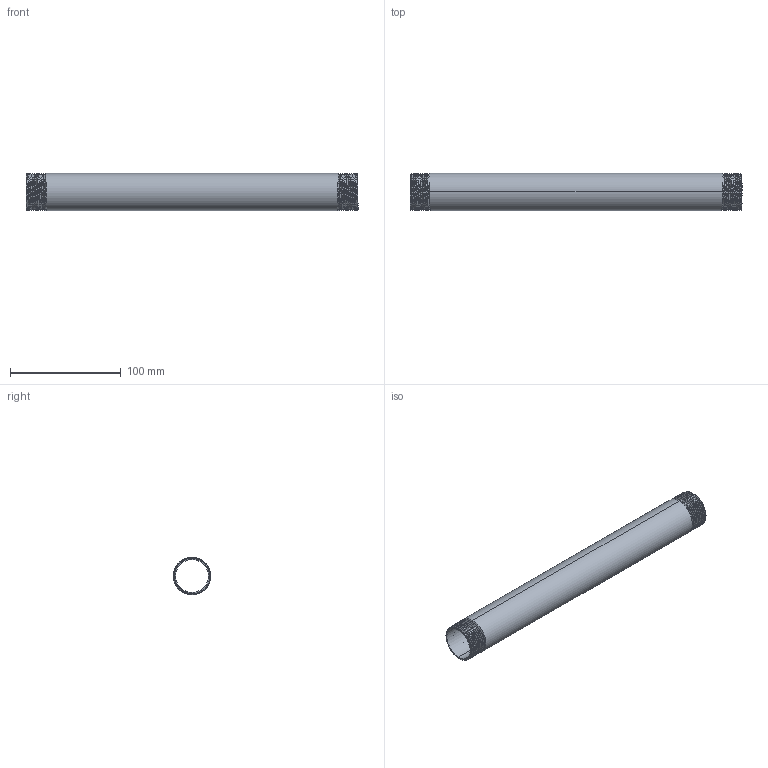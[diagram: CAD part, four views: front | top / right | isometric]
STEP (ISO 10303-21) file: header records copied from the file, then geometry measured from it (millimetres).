
FILE_DESCRIPTION (( 'STEP AP203' ), '1' );
FILE_NAME ('3D_R210_1x300_17185954.STEP', '2024-08-16T14:26:45', ( '' ), ( '' ), 'SwSTEP 2.0', 'SolidWorks 2024', '' );
FILE_SCHEMA (( 'CONFIG_CONTROL_DESIGN' ));
Length unit declared in the file: millimetre
Products named in the file (1): 3D_R210_1x300_17185954
Bounding box: 300 x 33.65 x 33.7 mm (x, y, z)
Volume: 57529.5 mm3; surface area: 61955.1 mm2
Topology: 1 solids, 1 shells, 52 faces, 144 edges, 94 vertices
Faces by surface type: cone 38, bspline 6, cylinder 4, plane 4
Entity records: 8453 total; most frequent: CARTESIAN_POINT 7241, ORIENTED_EDGE 288, DIRECTION 160, EDGE_CURVE 144, VERTEX_POINT 94, B_SPLINE_CURVE_WITH_KNOTS 80, AXIS2_PLACEMENT_3D 57, EDGE_LOOP 54
